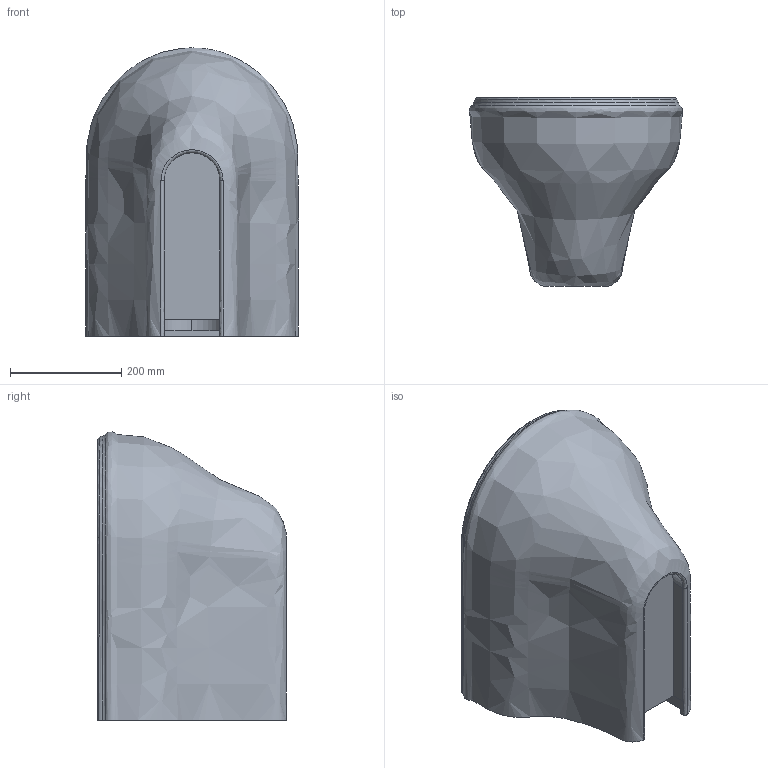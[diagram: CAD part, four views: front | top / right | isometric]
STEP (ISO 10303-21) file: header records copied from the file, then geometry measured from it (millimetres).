
FILE_DESCRIPTION (( 'STEP AP203' ), '1' );
FILE_NAME ('CHBKS000000M.STEP', '2019-01-21T10:36:16', ( '' ), ( '' ), 'SwSTEP 2.0', 'SolidWorks 2019', '' );
FILE_SCHEMA (( 'CONFIG_CONTROL_DESIGN' ));
Length unit declared in the file: millimetre
Products named in the file (1): CHBKS000000M
Bounding box: 383.79 x 339.82 x 518.84 mm (x, y, z)
Volume: 29258286.7 mm3; surface area: 831138.2 mm2
Topology: 1 solids, 1 shells, 66 faces, 169 edges, 110 vertices
Faces by surface type: cylinder 21, bspline 20, plane 19, torus 4, cone 2
Entity records: 10574 total; most frequent: CARTESIAN_POINT 9026, ORIENTED_EDGE 338, DIRECTION 263, EDGE_CURVE 169, VERTEX_POINT 110, AXIS2_PLACEMENT_3D 106, EDGE_LOOP 71, FACE_OUTER_BOUND 66
